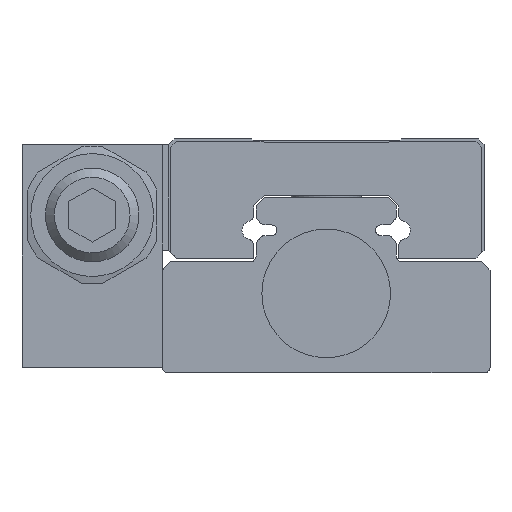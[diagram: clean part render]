
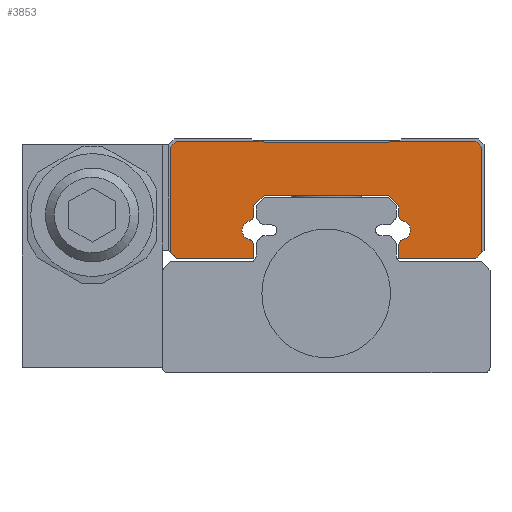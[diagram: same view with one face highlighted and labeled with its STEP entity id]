
A CAD part, front view. The second image highlights one B-rep face of the part: STEP entity #3853.
In plain terms, the highlighted planar face has unit normal (0, -1, 0).
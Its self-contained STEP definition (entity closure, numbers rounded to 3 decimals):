
#127=PLANE('',#4272);
#343=LINE('',#6276,#668);
#346=LINE('',#6282,#671);
#349=LINE('',#6288,#674);
#352=LINE('',#6294,#677);
#355=LINE('',#6300,#680);
#358=LINE('',#6306,#683);
#361=LINE('',#6312,#686);
#364=LINE('',#6318,#689);
#367=LINE('',#6324,#692);
#396=LINE('',#6383,#721);
#400=LINE('',#6392,#725);
#404=LINE('',#6401,#729);
#407=LINE('',#6407,#732);
#410=LINE('',#6413,#735);
#420=LINE('',#6443,#745);
#421=LINE('',#6444,#746);
#422=LINE('',#6452,#747);
#423=LINE('',#6453,#748);
#424=LINE('',#6461,#749);
#425=LINE('',#6462,#750);
#668=VECTOR('',#5099,1000.);
#671=VECTOR('',#5104,1000.);
#674=VECTOR('',#5109,1000.);
#677=VECTOR('',#5114,1000.);
#680=VECTOR('',#5119,1000.);
#683=VECTOR('',#5124,1000.);
#686=VECTOR('',#5129,1000.);
#689=VECTOR('',#5134,1000.);
#692=VECTOR('',#5139,1000.);
#721=VECTOR('',#5188,1000.);
#725=VECTOR('',#5194,1000.);
#729=VECTOR('',#5200,1000.);
#732=VECTOR('',#5205,1000.);
#735=VECTOR('',#5210,1000.);
#745=VECTOR('',#5236,1000.);
#746=VECTOR('',#5237,1000.);
#747=VECTOR('',#5244,1000.);
#748=VECTOR('',#5245,1000.);
#749=VECTOR('',#5252,1000.);
#750=VECTOR('',#5253,1000.);
#1618=ORIENTED_EDGE('',*,*,#2317,.F.);
#1619=ORIENTED_EDGE('',*,*,#2301,.F.);
#1620=ORIENTED_EDGE('',*,*,#2318,.F.);
#1621=ORIENTED_EDGE('',*,*,#2319,.F.);
#1622=ORIENTED_EDGE('',*,*,#2320,.T.);
#1623=ORIENTED_EDGE('',*,*,#2321,.F.);
#1624=ORIENTED_EDGE('',*,*,#2322,.F.);
#1625=ORIENTED_EDGE('',*,*,#2298,.F.);
#1626=ORIENTED_EDGE('',*,*,#2295,.F.);
#1627=ORIENTED_EDGE('',*,*,#2291,.F.);
#1628=ORIENTED_EDGE('',*,*,#2323,.F.);
#1629=ORIENTED_EDGE('',*,*,#2324,.F.);
#1630=ORIENTED_EDGE('',*,*,#2325,.T.);
#1631=ORIENTED_EDGE('',*,*,#2326,.F.);
#1632=ORIENTED_EDGE('',*,*,#2327,.F.);
#1633=ORIENTED_EDGE('',*,*,#2287,.F.);
#1634=ORIENTED_EDGE('',*,*,#2328,.F.);
#1635=ORIENTED_EDGE('',*,*,#2258,.F.);
#1636=ORIENTED_EDGE('',*,*,#2255,.F.);
#1637=ORIENTED_EDGE('',*,*,#2252,.F.);
#1638=ORIENTED_EDGE('',*,*,#2249,.F.);
#1639=ORIENTED_EDGE('',*,*,#2246,.F.);
#1640=ORIENTED_EDGE('',*,*,#2243,.F.);
#1641=ORIENTED_EDGE('',*,*,#2240,.F.);
#1642=ORIENTED_EDGE('',*,*,#2237,.F.);
#1643=ORIENTED_EDGE('',*,*,#2234,.F.);
#2234=EDGE_CURVE('',#2665,#2663,#343,.T.);
#2237=EDGE_CURVE('',#2663,#2667,#346,.T.);
#2240=EDGE_CURVE('',#2667,#2669,#349,.T.);
#2243=EDGE_CURVE('',#2669,#2671,#352,.T.);
#2246=EDGE_CURVE('',#2671,#2673,#355,.T.);
#2249=EDGE_CURVE('',#2673,#2675,#358,.T.);
#2252=EDGE_CURVE('',#2675,#2677,#361,.T.);
#2255=EDGE_CURVE('',#2677,#2679,#364,.T.);
#2258=EDGE_CURVE('',#2679,#2681,#367,.T.);
#2287=EDGE_CURVE('',#2702,#2703,#396,.T.);
#2291=EDGE_CURVE('',#2706,#2707,#400,.T.);
#2295=EDGE_CURVE('',#2707,#2710,#404,.T.);
#2298=EDGE_CURVE('',#2710,#2712,#407,.T.);
#2301=EDGE_CURVE('',#2714,#2715,#410,.T.);
#2317=EDGE_CURVE('',#2715,#2665,#420,.T.);
#2318=EDGE_CURVE('',#2726,#2714,#421,.T.);
#2319=EDGE_CURVE('',#2727,#2726,#2937,.T.);
#2320=EDGE_CURVE('',#2727,#2728,#2938,.T.);
#2321=EDGE_CURVE('',#2729,#2728,#2939,.T.);
#2322=EDGE_CURVE('',#2712,#2729,#422,.T.);
#2323=EDGE_CURVE('',#2730,#2706,#423,.T.);
#2324=EDGE_CURVE('',#2731,#2730,#2940,.T.);
#2325=EDGE_CURVE('',#2731,#2732,#2941,.T.);
#2326=EDGE_CURVE('',#2733,#2732,#2942,.T.);
#2327=EDGE_CURVE('',#2703,#2733,#424,.T.);
#2328=EDGE_CURVE('',#2681,#2702,#425,.T.);
#2663=VERTEX_POINT('',#6271);
#2665=VERTEX_POINT('',#6275);
#2667=VERTEX_POINT('',#6280);
#2669=VERTEX_POINT('',#6286);
#2671=VERTEX_POINT('',#6292);
#2673=VERTEX_POINT('',#6298);
#2675=VERTEX_POINT('',#6304);
#2677=VERTEX_POINT('',#6310);
#2679=VERTEX_POINT('',#6316);
#2681=VERTEX_POINT('',#6322);
#2702=VERTEX_POINT('',#6384);
#2703=VERTEX_POINT('',#6385);
#2706=VERTEX_POINT('',#6393);
#2707=VERTEX_POINT('',#6394);
#2710=VERTEX_POINT('',#6402);
#2712=VERTEX_POINT('',#6408);
#2714=VERTEX_POINT('',#6414);
#2715=VERTEX_POINT('',#6415);
#2726=VERTEX_POINT('',#6445);
#2727=VERTEX_POINT('',#6447);
#2728=VERTEX_POINT('',#6449);
#2729=VERTEX_POINT('',#6451);
#2730=VERTEX_POINT('',#6454);
#2731=VERTEX_POINT('',#6456);
#2732=VERTEX_POINT('',#6458);
#2733=VERTEX_POINT('',#6460);
#2937=CIRCLE('',#4273,0.5);
#2938=CIRCLE('',#4274,0.8);
#2939=CIRCLE('',#4275,0.5);
#2940=CIRCLE('',#4276,0.5);
#2941=CIRCLE('',#4277,0.8);
#2942=CIRCLE('',#4278,0.5);
#3212=EDGE_LOOP('',(#1618,#1619,#1620,#1621,#1622,#1623,#1624,#1625,#1626,
#1627,#1628,#1629,#1630,#1631,#1632,#1633,#1634,#1635,#1636,#1637,#1638,
#1639,#1640,#1641,#1642,#1643));
#3551=FACE_BOUND('',#3212,.T.);
#3853=ADVANCED_FACE('',(#3551),#127,.F.);
#4272=AXIS2_PLACEMENT_3D('',#6442,#5234,#5235);
#4273=AXIS2_PLACEMENT_3D('',#6446,#5238,#5239);
#4274=AXIS2_PLACEMENT_3D('',#6448,#5240,#5241);
#4275=AXIS2_PLACEMENT_3D('',#6450,#5242,#5243);
#4276=AXIS2_PLACEMENT_3D('',#6455,#5246,#5247);
#4277=AXIS2_PLACEMENT_3D('',#6457,#5248,#5249);
#4278=AXIS2_PLACEMENT_3D('',#6459,#5250,#5251);
#5099=DIRECTION('',(0.,0.,1.));
#5104=DIRECTION('',(0.707,0.,0.707));
#5109=DIRECTION('',(1.,0.,0.));
#5114=DIRECTION('',(0.707,0.,-0.707));
#5119=DIRECTION('',(1.,0.,0.));
#5124=DIRECTION('',(0.707,0.,0.707));
#5129=DIRECTION('',(1.,0.,0.));
#5134=DIRECTION('',(0.707,0.,-0.707));
#5139=DIRECTION('',(0.,0.,-1.));
#5188=DIRECTION('',(-1.,0.,0.));
#5194=DIRECTION('',(-0.707,0.,0.707));
#5200=DIRECTION('',(-1.,0.,0.));
#5205=DIRECTION('',(-0.707,0.,-0.707));
#5210=DIRECTION('',(-1.,0.,0.));
#5234=DIRECTION('',(0.,1.,0.));
#5235=DIRECTION('',(0.,0.,1.));
#5236=DIRECTION('',(-0.707,0.,0.707));
#5237=DIRECTION('',(0.,0.,-1.));
#5238=DIRECTION('',(0.,1.,0.));
#5239=DIRECTION('',(1.,0.,0.));
#5240=DIRECTION('',(0.,1.,0.));
#5241=DIRECTION('',(1.,0.,0.));
#5242=DIRECTION('',(0.,1.,0.));
#5243=DIRECTION('',(1.,0.,0.));
#5244=DIRECTION('',(0.,0.,-1.));
#5245=DIRECTION('',(0.,0.,1.));
#5246=DIRECTION('',(0.,1.,0.));
#5247=DIRECTION('',(1.,0.,0.));
#5248=DIRECTION('',(0.,1.,0.));
#5249=DIRECTION('',(1.,0.,0.));
#5250=DIRECTION('',(0.,1.,0.));
#5251=DIRECTION('',(1.,0.,0.));
#5252=DIRECTION('',(0.,0.,1.));
#5253=DIRECTION('',(-0.707,0.,-0.707));
#6271=CARTESIAN_POINT('',(-13.3,9.,19.3));
#6275=CARTESIAN_POINT('',(-13.3,9.,10.3));
#6276=CARTESIAN_POINT('',(-13.3,9.,10.3));
#6280=CARTESIAN_POINT('',(-12.8,9.,19.8));
#6282=CARTESIAN_POINT('',(-13.3,9.,19.3));
#6286=CARTESIAN_POINT('',(-5.4,9.,19.8));
#6288=CARTESIAN_POINT('',(-12.8,9.,19.8));
#6292=CARTESIAN_POINT('',(-5.3,9.,19.7));
#6294=CARTESIAN_POINT('',(-5.4,9.,19.8));
#6298=CARTESIAN_POINT('',(5.3,9.,19.7));
#6300=CARTESIAN_POINT('',(-5.3,9.,19.7));
#6304=CARTESIAN_POINT('',(5.4,9.,19.8));
#6306=CARTESIAN_POINT('',(5.3,9.,19.7));
#6310=CARTESIAN_POINT('',(12.8,9.,19.8));
#6312=CARTESIAN_POINT('',(5.4,9.,19.8));
#6316=CARTESIAN_POINT('',(13.3,9.,19.3));
#6318=CARTESIAN_POINT('',(12.8,9.,19.8));
#6322=CARTESIAN_POINT('',(13.3,9.,10.3));
#6324=CARTESIAN_POINT('',(13.3,9.,19.3));
#6383=CARTESIAN_POINT('',(12.8,9.,9.8));
#6384=CARTESIAN_POINT('',(12.8,9.,9.8));
#6385=CARTESIAN_POINT('',(6.2,9.,9.8));
#6392=CARTESIAN_POINT('',(6.2,9.,14.28));
#6393=CARTESIAN_POINT('',(6.2,9.,14.28));
#6394=CARTESIAN_POINT('',(5.3,9.,15.18));
#6401=CARTESIAN_POINT('',(5.3,9.,15.18));
#6402=CARTESIAN_POINT('',(-5.3,9.,15.18));
#6407=CARTESIAN_POINT('',(-5.3,9.,15.18));
#6408=CARTESIAN_POINT('',(-6.2,9.,14.28));
#6413=CARTESIAN_POINT('',(-6.2,9.,9.8));
#6414=CARTESIAN_POINT('',(-6.2,9.,9.8));
#6415=CARTESIAN_POINT('',(-12.8,9.,9.8));
#6442=CARTESIAN_POINT('',(6.7,9.,10.935));
#6443=CARTESIAN_POINT('',(-12.8,9.,9.8));
#6444=CARTESIAN_POINT('',(-6.2,9.,10.935));
#6445=CARTESIAN_POINT('',(-6.2,9.,10.935));
#6446=CARTESIAN_POINT('',(-6.7,9.,10.935));
#6447=CARTESIAN_POINT('',(-6.585,9.,11.422));
#6448=CARTESIAN_POINT('',(-6.4,9.,12.2));
#6449=CARTESIAN_POINT('',(-6.585,9.,12.978));
#6450=CARTESIAN_POINT('',(-6.7,9.,13.465));
#6451=CARTESIAN_POINT('',(-6.2,9.,13.465));
#6452=CARTESIAN_POINT('',(-6.2,9.,14.28));
#6453=CARTESIAN_POINT('',(6.2,9.,13.465));
#6454=CARTESIAN_POINT('',(6.2,9.,13.465));
#6455=CARTESIAN_POINT('',(6.7,9.,13.465));
#6456=CARTESIAN_POINT('',(6.585,9.,12.978));
#6457=CARTESIAN_POINT('',(6.4,9.,12.2));
#6458=CARTESIAN_POINT('',(6.585,9.,11.422));
#6459=CARTESIAN_POINT('',(6.7,9.,10.935));
#6460=CARTESIAN_POINT('',(6.2,9.,10.935));
#6461=CARTESIAN_POINT('',(6.2,9.,9.8));
#6462=CARTESIAN_POINT('',(13.3,9.,10.3));
